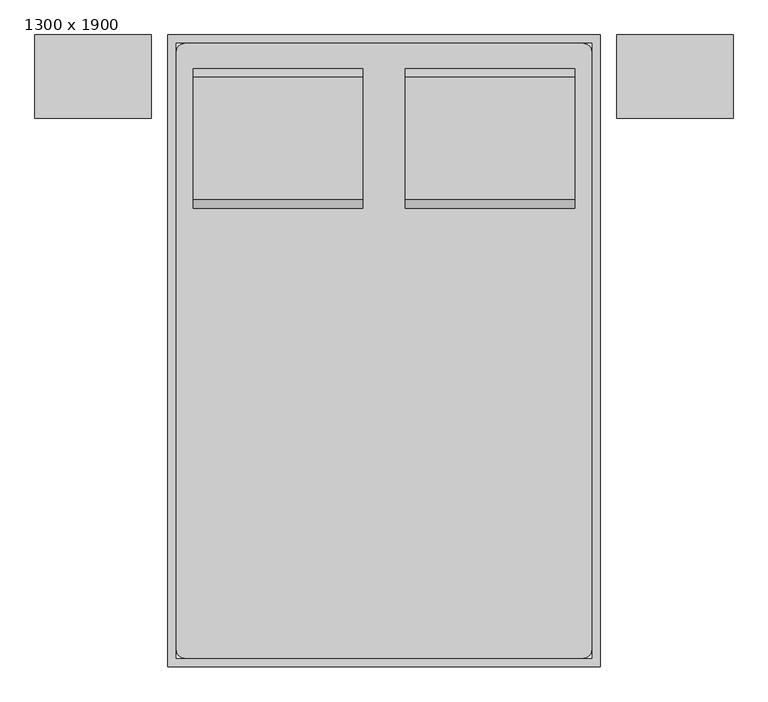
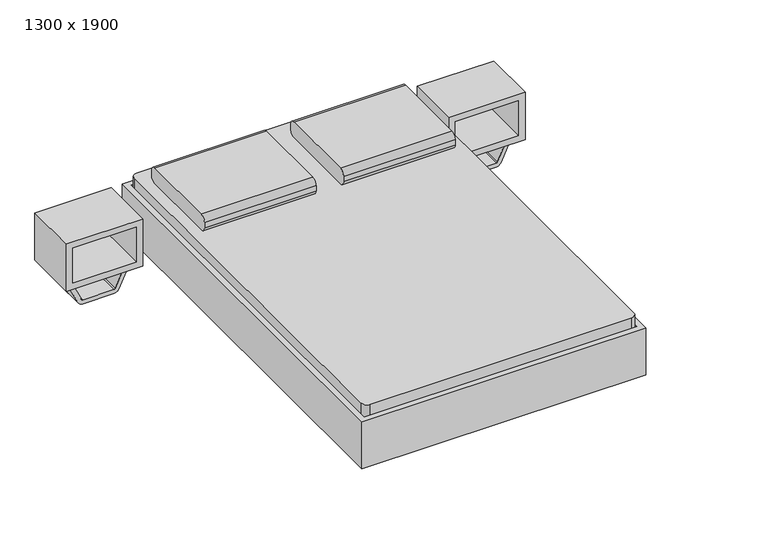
"""IFC4 building model written with IfcOpenShell, lengths in millimetres: furniture geometry, 双人床带床头柜 : 1300 x 1900."""

import ifcopenshell
import ifcopenshell.guid

model = None  # the IFC model being written
_history = None  # IfcOwnerHistory: only IFC2X3 demands one
_inside = {}  # id of a spatial element -> (the spatial element, [elements in it])
_under = {}  # id of a project, library or spatial element -> (it, [spatial elements below it])
_declared = {}  # id of a project -> (the project, [libraries it declares])
_typed = {}  # id of a type object -> (the type object, [elements of that type])
_made_of = {}  # id of a material, layer set ... -> (it, [elements and type objects made of it])


def new_model(schema):
    """Start an empty IFC model of exactly this schema.

    Asked for "IFC4X3", IfcOpenShell would pick the latest addendum, in which some entities
    have other attributes; the version numbers below select the first issue.
    IFC2X3 requires an IfcOwnerHistory on every rooted entity: one is made here for all.
    """
    global model, _history
    if schema == "IFC4X3":
        model = ifcopenshell.file(schema_version=(4, 3, 0, 0))
    else:
        model = ifcopenshell.file(schema=schema)
    _inside.clear()
    _under.clear()
    _declared.clear()
    _typed.clear()
    _made_of.clear()
    _history = None
    if model.schema == "IFC2X3":
        org = make("IfcOrganization", Name="unknown")
        user = make(
            "IfcPersonAndOrganization",
            ThePerson=make("IfcPerson", FamilyName="unknown"),
            TheOrganization=org,
        )
        app = make(
            "IfcApplication",
            ApplicationDeveloper=org,
            Version="unknown",
            ApplicationFullName="unknown",
            ApplicationIdentifier="unknown",
        )
        _history = make(
            "IfcOwnerHistory",
            OwningUser=user,
            OwningApplication=app,
            ChangeAction="ADDED",
            CreationDate=0,
        )
    return model


def make(cls, **values):
    """One entity of the class cls with the attributes given. An attribute that is None is left unset."""
    return model.create_entity(
        cls, **{name: value for name, value in values.items() if value is not None}
    )


def rooted(cls, **values):
    """An entity with a GlobalId (a new one), such as an element, a storey or a relation."""
    return make(cls, GlobalId=ifcopenshell.guid.new(), OwnerHistory=_history, **values)


def si_unit(unit_type, name, prefix=None):
    """IfcSIUnit, for example si_unit("LENGTHUNIT", "METRE", prefix="MILLI")."""
    return make("IfcSIUnit", UnitType=unit_type, Prefix=prefix, Name=name)


def assignment(units):
    """IfcUnitAssignment: the units of a project."""
    return None if units is None else make("IfcUnitAssignment", Units=units)


def point(xyz):
    """IfcCartesianPoint."""
    return None if xyz is None else make("IfcCartesianPoint", Coordinates=xyz)


def direction(xyz):
    """IfcDirection."""
    return None if xyz is None else make("IfcDirection", DirectionRatios=xyz)


def frame(location, z_axis=None, x_axis=None):
    """IfcAxis2Placement3D, a coordinate frame: its origin and axes. An axis left out is left unset."""
    return make(
        "IfcAxis2Placement3D",
        Location=point(location),
        Axis=direction(z_axis),
        RefDirection=direction(x_axis),
    )


def frame_2d(location, x_axis=None):
    """IfcAxis2Placement2D, a coordinate frame in the plane: its origin and x axis."""
    return make(
        "IfcAxis2Placement2D", Location=point(location), RefDirection=direction(x_axis)
    )


def origin():
    """The frame at (0, 0, 0) with its axes left unset."""
    return frame((0.0, 0.0, 0.0))


def place(relative_to, where):
    """IfcLocalPlacement: puts the frame where relative to a parent placement (None: the world)."""
    return make(
        "IfcLocalPlacement", PlacementRelTo=relative_to, RelativePlacement=where
    )


def context(
    kind, dimensions, precision=None, world=None, true_north=None, identifier=None
):
    """IfcGeometricRepresentationContext, for example the 3D "Model" context."""
    return make(
        "IfcGeometricRepresentationContext",
        ContextIdentifier=identifier,
        ContextType=kind,
        CoordinateSpaceDimension=dimensions,
        Precision=precision,
        WorldCoordinateSystem=world,
        TrueNorth=true_north,
    )


def project(units=None, contexts=None):
    """IfcProject with its units and contexts."""
    return rooted(
        "IfcProject",
        Name="project",
        RepresentationContexts=contexts,
        UnitsInContext=assignment(units),
    )


def spatial(cls, under=None, at=None, **own):
    """A site, building, storey or space (cls), placed at a placement, below another one or the project."""
    s = rooted(cls, ObjectPlacement=at, **own)
    if under is not None:
        _under.setdefault(under.id(), (under, []))[1].append(s)
    return s


def polyline(points):
    """IfcPolyline through the points."""
    return make("IfcPolyline", Points=[point(p) for p in points])


def circle_curve(where, radius):
    """IfcCircle in the frame where."""
    return make("IfcCircle", Position=where, Radius=radius)


def trimmed(basis, trim1, trim2, sense, master):
    """IfcTrimmedCurve: the piece of a basis curve between two trims."""
    return make(
        "IfcTrimmedCurve",
        BasisCurve=basis,
        Trim1=trim1,
        Trim2=trim2,
        SenseAgreement=sense,
        MasterRepresentation=master,
    )


def segment(curve, same_sense, transition):
    """IfcCompositeCurveSegment."""
    return make(
        "IfcCompositeCurveSegment",
        Transition=transition,
        SameSense=same_sense,
        ParentCurve=curve,
    )


def composite_curve(segments, self_intersect=None):
    """IfcCompositeCurve: segments joined end to end."""
    return make("IfcCompositeCurve", Segments=segments, SelfIntersect=self_intersect)


def outline(outer, holes=None, kind="AREA"):
    """IfcArbitraryClosedProfileDef: a profile drawn as a closed curve; with holes, ...WithVoids."""
    if holes is None:
        return make("IfcArbitraryClosedProfileDef", ProfileType=kind, OuterCurve=outer)
    return make(
        "IfcArbitraryProfileDefWithVoids",
        ProfileType=kind,
        OuterCurve=outer,
        InnerCurves=holes,
    )


def extrude(swept, where, along, depth):
    """IfcExtrudedAreaSolid: the profile swept, set in the frame where, extruded along a direction by depth."""
    return make(
        "IfcExtrudedAreaSolid",
        SweptArea=swept,
        Position=where,
        ExtrudedDirection=direction(along),
        Depth=depth,
    )


def shape(context_of_items, identifier, shape_type, items):
    """IfcShapeRepresentation: the items that make up one representation, for example the "Body"."""
    return make(
        "IfcShapeRepresentation",
        ContextOfItems=context_of_items,
        RepresentationIdentifier=identifier,
        RepresentationType=shape_type,
        Items=items,
    )


def source(mapping_origin, context_of_items, identifier, shape_type, items):
    """IfcRepresentationMap: a shape defined once, which mapped items show again and again."""
    return make(
        "IfcRepresentationMap",
        MappingOrigin=mapping_origin,
        MappedRepresentation=shape(context_of_items, identifier, shape_type, items),
    )


def transform(
    local_origin,
    x_axis=None,
    y_axis=None,
    z_axis=None,
    scale=None,
    scale2=None,
    scale3=None,
    uniform=True,
):
    """IfcCartesianTransformationOperator3D, or its non-uniform kind. x_axis, y_axis, z_axis: its Axis1, 2, 3."""
    if uniform:
        return make(
            "IfcCartesianTransformationOperator3D",
            Axis1=direction(x_axis),
            Axis2=direction(y_axis),
            LocalOrigin=point(local_origin),
            Scale=scale,
            Axis3=direction(z_axis),
        )
    return make(
        "IfcCartesianTransformationOperator3DnonUniform",
        Axis1=direction(x_axis),
        Axis2=direction(y_axis),
        LocalOrigin=point(local_origin),
        Scale=scale,
        Axis3=direction(z_axis),
        Scale2=scale2,
        Scale3=scale3,
    )


def mapped(mapping_source, mapping_target):
    """IfcMappedItem: shows the shape of a source again, moved by a transform."""
    return make(
        "IfcMappedItem", MappingSource=mapping_source, MappingTarget=mapping_target
    )


def made_of(thing, what):
    """Note that an element or type object is made of a material, layer set ...; save() writes the relation."""
    if what is not None:
        _made_of.setdefault(what.id(), (what, []))[1].append(thing)
    return thing


def element(
    cls,
    number,
    at=None,
    inside=None,
    cuts=None,
    type_object=None,
    material=None,
    context=None,
    identifier="Body",
    shape_type=None,
    held_by="IfcProductDefinitionShape",
    body=None,
    shapes=None,
    **own,
):
    """One element of the class cls, such as IfcWall. Its Tag is "e" and its number.

    at: its placement. inside: the storey or other place that contains it. cuts: it is an
    opening in that element (IfcRelVoidsElement). A single representation is given by context,
    identifier, shape_type and body (its items); several are given by shapes. held_by: the class
    of the entity that holds the representations. save() writes the other relations.
    """
    e = rooted(cls, Tag="e%d" % number, ObjectPlacement=at, **own)
    if body is not None:
        shapes = [shape(context, identifier, shape_type, body)]
    if shapes is not None:
        e.Representation = make(held_by, Representations=shapes)
    if inside is not None:
        _inside.setdefault(inside.id(), (inside, []))[1].append(e)
    if cuts is not None:
        rooted(
            "IfcRelVoidsElement", RelatingBuildingElement=cuts, RelatedOpeningElement=e
        )
    if type_object is not None:
        _typed.setdefault(type_object.id(), (type_object, []))[1].append(e)
    return made_of(e, material)


def aggregate(whole, parts):
    """IfcRelAggregates: a whole, such as a stair, and the parts it consists of."""
    return rooted("IfcRelAggregates", RelatingObject=whole, RelatedObjects=parts)


def save(model, path):
    """Write the relations noted so far, then the file.

    IfcRelAggregates (storeys below a building ...), IfcRelContainedInSpatialStructure (elements
    in a storey), IfcRelDefinesByType, IfcRelAssociatesMaterial and IfcRelDeclares: one each for
    every whole, place, type object, material and project.
    """
    for whole, parts in _under.values():
        aggregate(whole, parts)
    for where, things in _inside.values():
        rooted(
            "IfcRelContainedInSpatialStructure",
            RelatedElements=things,
            RelatingStructure=where,
        )
    for kind, things in _typed.values():
        rooted("IfcRelDefinesByType", RelatedObjects=things, RelatingType=kind)
    for what, things in _made_of.values():
        rooted("IfcRelAssociatesMaterial", RelatedObjects=things, RelatingMaterial=what)
    for by, libraries in _declared.values():
        rooted("IfcRelDeclares", RelatingContext=by, RelatedDefinitions=libraries)
    model.write(path)


def plane_surface(at):
    """IfcPlane: the flat surface through the origin of the frame at, square to its z axis."""
    return make("IfcPlane", Position=at)


def cylinder_surface(at, radius):
    """IfcCylindricalSurface: all points at the distance radius from the z axis of the frame at."""
    return make("IfcCylindricalSurface", Position=at, Radius=radius)


def revolved_surface(curve, axis_point, axis_direction):
    """IfcSurfaceOfRevolution: the curve turned about the line through axis_point along axis_direction."""
    return make(
        "IfcSurfaceOfRevolution",
        SweptCurve=make("IfcArbitraryOpenProfileDef", ProfileType="CURVE", Curve=curve),
        AxisPosition=make("IfcAxis1Placement", Location=point(axis_point), Axis=direction(axis_direction)),
    )


def advanced_brep(points, edges, surfaces, faces):
    """IfcAdvancedBrep: a solid bounded by faces that lie on surfaces and meet in shared edges.

    An edge is (start, end): straight between two places in points (the first is 0);
    or (start, end, curve); or (start, end, curve, False) where it runs against its curve.
    A face is (place in surfaces, loops), or (place, loops, False) where it looks against
    its surface's normal. A loop lists edges by number (the first is 1), with a minus sign
    where the edge is run from its end to its start. The first loop is the outer one.
    """
    corners = [point(p) for p in points]
    vertices = [make("IfcVertexPoint", VertexGeometry=c) for c in corners]
    made = []
    for start, end, *more in edges:
        made.append(
            make(
                "IfcEdgeCurve",
                EdgeStart=vertices[start],
                EdgeEnd=vertices[end],
                EdgeGeometry=more[0] if more else make("IfcPolyline", Points=[corners[start], corners[end]]),
                SameSense=more[1] if len(more) > 1 else True,
            )
        )
    hull = []
    for where, loops, *sense in faces:
        bounds = []
        for j, loop in enumerate(loops):
            ring = [make("IfcOrientedEdge", EdgeElement=made[abs(k) - 1], Orientation=k > 0) for k in loop]
            bounds.append(
                make(
                    "IfcFaceOuterBound" if j == 0 else "IfcFaceBound",
                    Bound=make("IfcEdgeLoop", EdgeList=ring),
                    Orientation=True,
                )
            )
        hull.append(make("IfcAdvancedFace", Bounds=bounds, FaceSurface=surfaces[where], SameSense=sense[0] if sense else True))
    return make("IfcAdvancedBrep", Outer=make("IfcClosedShell", CfsFaces=hull))


def furniture_1300_x_1900_9f84805e(model_context):
    return source(origin(), model_context, "Body", "SolidModel", [
        advanced_brep(
        [(-285.1231784, 461.5704918, 177.8), (-285.1231784, 385.3704918, 177.8), (-285.1231784, 385.3704918, 196.85), (-285.1231784, 461.5704918, 196.85), (-234.3231784, 461.5704918, 177.8), (-234.3231784, 385.3704918, 177.8), (-222.1869899, 385.3704918, 196.85), (-222.1869899, 461.5704918, 196.85), (-158.2523099, 461.5704918, 14.6654962), (-158.2523099, 385.3704918, 14.6654962), (-140.9871466, 385.3704918, 22.716374), (-140.9871466, 461.5704918, 22.716374), (-135.2320921, 385.3704918, 0.0), (-135.2320921, 461.5704918, 0.0), (-135.2320921, 385.3704918, 19.05), (-135.2320921, 461.5704918, 19.05), (-56.6195862, 461.5704918, 0.0), (-56.6195862, 385.3704918, 0.0), (-56.6195862, 385.3704918, 19.05), (-56.6195862, 461.5704918, 19.05), (-43.9195862, 385.3704918, 3.4029547), (-43.9195862, 461.5704918, 3.4029547), (-53.4445862, 385.3704918, 19.9007387), (-53.4445862, 461.5704918, 19.9007387), (16.177459, 461.5704918, 38.1), (16.177459, 385.3704918, 38.1), (11.0730269, 385.3704918, 57.15), (11.0730269, 461.5704918, 57.15), (662.4518216, 461.5704918, 38.1), (662.4518216, 385.3704918, 38.1), (667.5562537, 385.3704918, 57.15), (667.5562537, 461.5704918, 57.15), (722.5488669, 461.5704918, 3.4029547), (722.5488669, 385.3704918, 3.4029547), (732.0738669, 385.3704918, 19.9007387), (732.0738669, 461.5704918, 19.9007387), (735.2488669, 385.3704918, 0.0), (735.2488669, 461.5704918, 0.0), (735.2488669, 385.3704918, 19.05), (735.2488669, 461.5704918, 19.05), (813.8613728, 461.5704918, 0.0), (813.8613728, 385.3704918, 0.0), (813.8613728, 385.3704918, 19.05), (813.8613728, 461.5704918, 19.05), (836.8815906, 385.3704918, 14.6654962), (836.8815906, 461.5704918, 14.6654962), (819.6164272, 385.3704918, 22.716374), (819.6164272, 461.5704918, 22.716374), (912.952459, 461.5704918, 177.8), (912.952459, 385.3704918, 177.8), (900.8162705, 385.3704918, 196.85), (900.8162705, 461.5704918, 196.85), (963.752459, 461.5704918, 177.8), (963.752459, 461.5704918, 196.85), (963.752459, 385.3704918, 196.85), (963.752459, 385.3704918, 177.8)],
        [
            (0, 1),
            (1, 2),
            (2, 3),
            (3, 0),
            (0, 4),
            (4, 5),
            (5, 1),
            (5, 6),
            (6, 2),
            (6, 7),
            (7, 3),
            (7, 4),
            (4, 8),
            (8, 9),
            (9, 5),
            (9, 10),
            (10, 6),
            (10, 11),
            (11, 7),
            (11, 8),
            (12, 9, circle_curve(frame((-135.2320921, 385.3704918, 25.4), z_axis=(0.0, 1.0, 0.0), x_axis=(-0.906307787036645, 0.0, -0.42261826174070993)), 25.4)),
            (8, 13, circle_curve(frame((-135.2320921, 461.5704918, 25.4), z_axis=(0.0, -1.0, 0.0), x_axis=(-0.906307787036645, 0.0, -0.42261826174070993)), 25.4)),
            (13, 12),
            (14, 10, circle_curve(frame((-135.2320921, 385.3704918, 25.4), z_axis=(0.0, 1.0, 0.0), x_axis=(-0.906307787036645, 0.0, -0.42261826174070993)), 6.35)),
            (12, 14),
            (15, 11, circle_curve(frame((-135.2320921, 461.5704918, 25.4), z_axis=(0.0, 1.0, 0.0), x_axis=(-0.906307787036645, 0.0, -0.42261826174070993)), 6.35)),
            (14, 15),
            (15, 13),
            (13, 16),
            (16, 17),
            (17, 12),
            (17, 18),
            (18, 14),
            (18, 19),
            (19, 15),
            (19, 16),
            (20, 17, circle_curve(frame((-56.6195862, 385.3704918, 25.4), z_axis=(0.0, 1.0, 0.0), x_axis=(0.0, 0.0, -1.0)), 25.4)),
            (16, 21, circle_curve(frame((-56.6195862, 461.5704918, 25.4), z_axis=(0.0, -1.0, 0.0), x_axis=(0.0, 0.0, -1.0)), 25.4)),
            (21, 20),
            (22, 18, circle_curve(frame((-56.6195862, 385.3704918, 25.4), z_axis=(0.0, 1.0, 0.0), x_axis=(0.0, 0.0, -1.0)), 6.35)),
            (20, 22),
            (23, 19, circle_curve(frame((-56.6195862, 461.5704918, 25.4), z_axis=(0.0, 1.0, 0.0), x_axis=(0.0, 0.0, -1.0)), 6.35)),
            (22, 23),
            (23, 21),
            (21, 24),
            (24, 25),
            (25, 20),
            (25, 26),
            (26, 22),
            (26, 27),
            (27, 23),
            (27, 24),
            (24, 28),
            (28, 29),
            (29, 25),
            (29, 30),
            (30, 26),
            (30, 31),
            (31, 27),
            (31, 28),
            (28, 32),
            (32, 33),
            (33, 29),
            (33, 34),
            (34, 30),
            (34, 35),
            (35, 31),
            (35, 32),
            (36, 33, circle_curve(frame((735.2488669, 385.3704918, 25.4), z_axis=(0.0, 1.0, 0.0), x_axis=(-0.5000000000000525, 0.0, -0.8660254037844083)), 25.4)),
            (32, 37, circle_curve(frame((735.2488669, 461.5704918, 25.4), z_axis=(0.0, -1.0, 0.0), x_axis=(-0.5000000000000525, 0.0, -0.8660254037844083)), 25.4)),
            (37, 36),
            (38, 34, circle_curve(frame((735.2488669, 385.3704918, 25.4), z_axis=(0.0, 1.0, 0.0), x_axis=(-0.5000000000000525, 0.0, -0.8660254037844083)), 6.35)),
            (36, 38),
            (39, 35, circle_curve(frame((735.2488669, 461.5704918, 25.4), z_axis=(0.0, 1.0, 0.0), x_axis=(-0.5000000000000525, 0.0, -0.8660254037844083)), 6.35)),
            (38, 39),
            (39, 37),
            (37, 40),
            (40, 41),
            (41, 36),
            (41, 42),
            (42, 38),
            (42, 43),
            (43, 39),
            (43, 40),
            (44, 41, circle_curve(frame((813.8613728, 385.3704918, 25.4), z_axis=(0.0, 1.0, 0.0), x_axis=(0.0, 0.0, -1.0)), 25.4)),
            (40, 45, circle_curve(frame((813.8613728, 461.5704918, 25.4), z_axis=(0.0, -1.0, 0.0), x_axis=(0.0, 0.0, -1.0)), 25.4)),
            (45, 44),
            (46, 42, circle_curve(frame((813.8613728, 385.3704918, 25.4), z_axis=(0.0, 1.0, 0.0), x_axis=(0.0, 0.0, -1.0)), 6.35)),
            (44, 46),
            (47, 43, circle_curve(frame((813.8613728, 461.5704918, 25.4), z_axis=(0.0, 1.0, 0.0), x_axis=(0.0, 0.0, -1.0)), 6.35)),
            (46, 47),
            (47, 45),
            (45, 48),
            (48, 49),
            (49, 44),
            (49, 50),
            (50, 46),
            (50, 51),
            (51, 47),
            (51, 48),
            (52, 53),
            (53, 54),
            (54, 55),
            (55, 52),
            (48, 52),
            (55, 49),
            (54, 50),
            (53, 51),
        ],
        [
            plane_surface(frame((-285.1231784, 715.5704918, -152.9490627), z_axis=(-1.0, 0.0, 0.0), x_axis=(0.0, 1.0, 0.0))),
            plane_surface(frame((-285.1231784, 461.5704918, 177.8), z_axis=(0.0, 0.0, -1.0), x_axis=(1.0, 0.0, 0.0))),
            plane_surface(frame((-285.1231784, 385.3704918, 177.8), z_axis=(0.0, -1.0, 0.0), x_axis=(1.0, 0.0, 0.0))),
            plane_surface(frame((-285.1231784, 385.3704918, 196.85), z_axis=(0.0, 0.0, 1.0), x_axis=(1.0, 0.0, 0.0))),
            plane_surface(frame((-285.1231784, 461.5704918, 196.85), z_axis=(0.0, 1.0, 0.0), x_axis=(1.0, 0.0, 0.0))),
            plane_surface(frame((-234.3231784, 461.5704918, 177.8), z_axis=(-0.9063077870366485, 0.0, -0.42261826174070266), x_axis=(0.42261826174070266, 0.0, -0.9063077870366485))),
            plane_surface(frame((-234.3231784, 385.3704918, 177.8), z_axis=(0.0, -1.0, 0.0), x_axis=(0.42261826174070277, 0.0, -0.9063077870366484))),
            plane_surface(frame((-222.1869899, 385.3704918, 196.85), z_axis=(0.9063077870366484, 0.0, 0.4226182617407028), x_axis=(0.4226182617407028, 0.0, -0.9063077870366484))),
            plane_surface(frame((-222.1869899, 461.5704918, 196.85), z_axis=(0.0, 1.0, 0.0), x_axis=(0.4226182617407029, 0.0, -0.9063077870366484))),
            cylinder_surface(frame((-135.2320921, 715.5704918, 25.4), z_axis=(0.0, -1.0, 0.0), x_axis=(-0.906307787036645, 0.0, -0.42261826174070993)), 25.4),
            plane_surface(frame((-135.2320921, 385.3704918, 25.4), z_axis=(0.0, -1.0, 0.0), x_axis=(-0.906307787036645, 0.0, -0.42261826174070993))),
            revolved_surface(polyline([(-140.9871465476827, 385.3704918, 22.71637403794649), (-140.9871465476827, 461.5704918, 22.71637403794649)]), (-135.2320921, 715.5704918, 25.4), (0.0, -1.0, 0.0)),
            plane_surface(frame((-135.2320921, 461.5704918, 25.4), z_axis=(0.0, 1.0, 0.0), x_axis=(-0.906307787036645, 0.0, -0.42261826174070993))),
            plane_surface(frame((-135.2320921, 461.5704918, 0.0), z_axis=(0.0, 0.0, -1.0), x_axis=(1.0, 0.0, 0.0))),
            plane_surface(frame((-135.2320921, 385.3704918, 0.0), z_axis=(0.0, -1.0, 0.0), x_axis=(1.0, 0.0, 0.0))),
            plane_surface(frame((-135.2320921, 385.3704918, 19.05), z_axis=(0.0, 0.0, 1.0), x_axis=(1.0, 0.0, 0.0))),
            plane_surface(frame((-135.2320921, 461.5704918, 19.05), z_axis=(0.0, 1.0, 0.0), x_axis=(1.0, 0.0, 0.0))),
            cylinder_surface(frame((-56.6195862, 715.5704918, 25.4), z_axis=(0.0, -1.0, 0.0), x_axis=(0.0, 0.0, -1.0)), 25.4),
            plane_surface(frame((-56.6195862, 385.3704918, 25.4), z_axis=(0.0, -1.0, 0.0), x_axis=(0.0, 0.0, -1.0))),
            revolved_surface(polyline([(-56.6195862, 385.3704918, 19.049999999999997), (-56.6195862, 461.5704918, 19.049999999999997)]), (-56.6195862, 715.5704918, 25.4), (0.0, -1.0, 0.0)),
            plane_surface(frame((-56.6195862, 461.5704918, 25.4), z_axis=(0.0, 1.0, 0.0), x_axis=(0.0, 0.0, -1.0))),
            plane_surface(frame((-43.9195862, 461.5704918, 3.4029547), z_axis=(0.49999999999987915, 0.0, -0.8660254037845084), x_axis=(0.8660254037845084, 0.0, 0.49999999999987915))),
            plane_surface(frame((-43.9195862, 385.3704918, 3.4029547), z_axis=(0.0, -1.0000000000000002, 0.0), x_axis=(0.8660254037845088, 0.0, 0.4999999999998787))),
            plane_surface(frame((-53.4445862, 385.3704918, 19.9007387), z_axis=(-0.49999999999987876, 0.0, 0.8660254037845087), x_axis=(0.8660254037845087, 0.0, 0.49999999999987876))),
            plane_surface(frame((-53.4445862, 461.5704918, 19.9007387), z_axis=(0.0, 1.0000000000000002, 0.0), x_axis=(0.8660254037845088, 0.0, 0.4999999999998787))),
            plane_surface(frame((16.177459, 461.5704918, 38.1), z_axis=(0.0, 0.0, -1.0), x_axis=(1.0, 0.0, 0.0))),
            plane_surface(frame((16.177459, 385.3704918, 38.1), z_axis=(0.0, -1.0, 0.0), x_axis=(1.0, 0.0, 0.0))),
            plane_surface(frame((11.0730269, 385.3704918, 57.15), z_axis=(0.0, 0.0, 1.0), x_axis=(1.0, 0.0, 0.0))),
            plane_surface(frame((11.0730269, 461.5704918, 57.15), z_axis=(0.0, 1.0, 0.0), x_axis=(1.0, 0.0, 0.0))),
            plane_surface(frame((662.4518216, 461.5704918, 38.1), z_axis=(-0.5000000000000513, 0.0, -0.8660254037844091), x_axis=(0.8660254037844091, 0.0, -0.5000000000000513))),
            plane_surface(frame((662.4518216, 385.3704918, 38.1), z_axis=(0.0, -1.0, 0.0), x_axis=(0.8660254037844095, 0.0, -0.5000000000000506))),
            plane_surface(frame((667.5562537, 385.3704918, 57.15), z_axis=(0.5000000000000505, 0.0, 0.8660254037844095), x_axis=(0.8660254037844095, 0.0, -0.5000000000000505))),
            plane_surface(frame((667.5562537, 461.5704918, 57.15), z_axis=(0.0, 1.0, 0.0), x_axis=(0.8660254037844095, 0.0, -0.5000000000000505))),
            cylinder_surface(frame((735.2488669, 715.5704918, 25.4), z_axis=(0.0, -1.0, 0.0), x_axis=(-0.5000000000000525, 0.0, -0.8660254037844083)), 25.4),
            plane_surface(frame((735.2488669, 385.3704918, 25.4), z_axis=(0.0, -1.0000000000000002, 0.0), x_axis=(-0.5000000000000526, 0.0, -0.8660254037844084))),
            revolved_surface(polyline([(732.0738668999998, 385.3704918, 19.900738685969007), (732.0738668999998, 461.5704918, 19.900738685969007)]), (735.2488669, 715.5704918, 25.4), (0.0, -1.0, 0.0)),
            plane_surface(frame((735.2488669, 461.5704918, 25.4), z_axis=(0.0, 1.0000000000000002, 0.0), x_axis=(-0.5000000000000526, 0.0, -0.8660254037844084))),
            plane_surface(frame((735.2488669, 461.5704918, 0.0), z_axis=(0.0, 0.0, -1.0), x_axis=(1.0, 0.0, 0.0))),
            plane_surface(frame((735.2488669, 385.3704918, 0.0), z_axis=(0.0, -1.0, 0.0), x_axis=(1.0, 0.0, 0.0))),
            plane_surface(frame((735.2488669, 385.3704918, 19.05), z_axis=(0.0, 0.0, 1.0), x_axis=(1.0, 0.0, 0.0))),
            plane_surface(frame((735.2488669, 461.5704918, 19.05), z_axis=(0.0, 1.0, 0.0), x_axis=(1.0, 0.0, 0.0))),
            cylinder_surface(frame((813.8613728, 715.5704918, 25.4), z_axis=(0.0, -1.0, 0.0), x_axis=(0.0, 0.0, -1.0)), 25.4),
            plane_surface(frame((813.8613728, 385.3704918, 25.4), z_axis=(0.0, -1.0, 0.0), x_axis=(0.0, 0.0, -1.0))),
            revolved_surface(polyline([(813.8613728, 385.3704918, 19.049999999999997), (813.8613728, 461.5704918, 19.049999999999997)]), (813.8613728, 715.5704918, 25.4), (0.0, -1.0, 0.0)),
            plane_surface(frame((813.8613728, 461.5704918, 25.4), z_axis=(0.0, 1.0, 0.0), x_axis=(0.0, 0.0, -1.0))),
            plane_surface(frame((836.8815906, 461.5704918, 14.6654962), z_axis=(0.9063077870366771, 0.0, -0.4226182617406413), x_axis=(0.4226182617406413, 0.0, 0.9063077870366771))),
            plane_surface(frame((836.8815906, 385.3704918, 14.6654962), z_axis=(0.0, -1.0, 0.0), x_axis=(0.42261826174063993, 0.0, 0.9063077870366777))),
            plane_surface(frame((819.6164272, 385.3704918, 22.716374), z_axis=(-0.9063077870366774, 0.0, 0.42261826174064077), x_axis=(0.42261826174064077, 0.0, 0.9063077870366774))),
            plane_surface(frame((819.6164272, 461.5704918, 22.716374), z_axis=(0.0, 1.0, 0.0), x_axis=(0.42261826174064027, 0.0, 0.9063077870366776))),
            plane_surface(frame((963.752459, 715.5704918, -152.9490627), z_axis=(1.0, 0.0, 0.0), x_axis=(0.0, 1.0, 0.0))),
            plane_surface(frame((912.952459, 461.5704918, 177.8), z_axis=(0.0, 0.0, -1.0), x_axis=(1.0, 0.0, 0.0))),
            plane_surface(frame((912.952459, 385.3704918, 177.8), z_axis=(0.0, -1.0, 0.0), x_axis=(1.0, 0.0, 0.0))),
            plane_surface(frame((900.8162705, 385.3704918, 196.85), z_axis=(0.0, 0.0, 1.0), x_axis=(1.0, 0.0, 0.0))),
            plane_surface(frame((900.8162705, 461.5704918, 196.85), z_axis=(0.0, 1.0, 0.0), x_axis=(1.0, 0.0, 0.0))),
        ],
        [
            (0, [[1, 2, 3, 4]]),
            (1, [[-1, 5, 6, 7]]),
            (2, [[-2, -7, 8, 9]]),
            (3, [[-3, -9, 10, 11]]),
            (4, [[-4, -11, 12, -5]]),
            (5, [[-6, 13, 14, 15]]),
            (6, [[-8, -15, 16, 17]]),
            (7, [[-10, -17, 18, 19]]),
            (8, [[-12, -19, 20, -13]]),
            (9, [[21, -14, 22, 23]]),
            (10, [[24, -16, -21, 25]]),
            (11, [[26, -18, -24, 27]]),
            (12, [[-22, -20, -26, 28]]),
            (13, [[-23, 29, 30, 31]]),
            (14, [[-25, -31, 32, 33]]),
            (15, [[-27, -33, 34, 35]]),
            (16, [[-28, -35, 36, -29]]),
            (17, [[37, -30, 38, 39]]),
            (18, [[40, -32, -37, 41]]),
            (19, [[42, -34, -40, 43]]),
            (20, [[-38, -36, -42, 44]]),
            (21, [[-39, 45, 46, 47]]),
            (22, [[-41, -47, 48, 49]]),
            (23, [[-43, -49, 50, 51]]),
            (24, [[-44, -51, 52, -45]]),
            (25, [[-46, 53, 54, 55]]),
            (26, [[-48, -55, 56, 57]]),
            (27, [[-50, -57, 58, 59]]),
            (28, [[-52, -59, 60, -53]]),
            (29, [[-54, 61, 62, 63]]),
            (30, [[-56, -63, 64, 65]]),
            (31, [[-58, -65, 66, 67]]),
            (32, [[-60, -67, 68, -61]]),
            (33, [[69, -62, 70, 71]]),
            (34, [[72, -64, -69, 73]]),
            (35, [[74, -66, -72, 75]]),
            (36, [[-70, -68, -74, 76]]),
            (37, [[-71, 77, 78, 79]]),
            (38, [[-73, -79, 80, 81]]),
            (39, [[-75, -81, 82, 83]]),
            (40, [[-76, -83, 84, -77]]),
            (41, [[85, -78, 86, 87]]),
            (42, [[88, -80, -85, 89]]),
            (43, [[90, -82, -88, 91]]),
            (44, [[-86, -84, -90, 92]]),
            (45, [[-87, 93, 94, 95]]),
            (46, [[-89, -95, 96, 97]]),
            (47, [[-91, -97, 98, 99]]),
            (48, [[-92, -99, 100, -93]]),
            (49, [[101, 102, 103, 104]]),
            (50, [[-94, 105, -104, 106]]),
            (51, [[-96, -106, -103, 107]]),
            (52, [[-98, -107, -102, 108]]),
            (53, [[-100, -108, -101, -105]]),
        ],
    ),
        advanced_brep(
        [(-285.447541, -879.6295082, 196.85), (-285.447541, -879.6295082, 177.8), (-285.447541, -955.8295082, 177.8), (-285.447541, -955.8295082, 196.85), (-222.5113525, -879.6295082, 196.85), (-234.647541, -879.6295082, 177.8), (-234.647541, -955.8295082, 177.8), (-222.5113525, -955.8295082, 196.85), (-141.3115092, -879.6295082, 22.716374), (-158.5766725, -879.6295082, 14.6654962), (-158.5766725, -955.8295082, 14.6654962), (-141.3115092, -955.8295082, 22.716374), (-135.5564547, -879.6295082, 0.0), (-135.5564547, -879.6295082, 19.05), (-135.5564547, -955.8295082, 0.0), (-135.5564547, -955.8295082, 19.05), (-56.9439489, -879.6295082, 19.05), (-56.9439489, -879.6295082, 0.0), (-56.9439489, -955.8295082, 0.0), (-56.9439489, -955.8295082, 19.05), (-44.2439489, -879.6295082, 3.4029547), (-53.7689489, -879.6295082, 19.9007387), (-44.2439489, -955.8295082, 3.4029547), (-53.7689489, -955.8295082, 19.9007387), (10.7486643, -879.6295082, 57.15), (15.8530964, -879.6295082, 38.1), (15.8530964, -955.8295082, 38.1), (10.7486643, -955.8295082, 57.15), (667.5562537, -879.6295082, 57.15), (662.4518216, -879.6295082, 38.1), (662.4518216, -955.8295082, 38.1), (667.5562537, -955.8295082, 57.15), (732.0738669, -879.6295082, 19.9007387), (722.5488669, -879.6295082, 3.4029547), (722.5488669, -955.8295082, 3.4029547), (732.0738669, -955.8295082, 19.9007387), (735.2488669, -879.6295082, 0.0), (735.2488669, -879.6295082, 19.05), (735.2488669, -955.8295082, 0.0), (735.2488669, -955.8295082, 19.05), (813.8613728, -879.6295082, 19.05), (813.8613728, -879.6295082, 0.0), (813.8613728, -955.8295082, 0.0), (813.8613728, -955.8295082, 19.05), (836.8815906, -879.6295082, 14.6654962), (819.6164272, -879.6295082, 22.716374), (836.8815906, -955.8295082, 14.6654962), (819.6164272, -955.8295082, 22.716374), (900.8162705, -879.6295082, 196.85), (912.952459, -879.6295082, 177.8), (912.952459, -955.8295082, 177.8), (900.8162705, -955.8295082, 196.85), (963.752459, -879.6295082, 196.85), (963.752459, -955.8295082, 196.85), (963.752459, -955.8295082, 177.8), (963.752459, -879.6295082, 177.8)],
        [
            (0, 1),
            (1, 2),
            (2, 3),
            (3, 0),
            (0, 4),
            (4, 5),
            (5, 1),
            (5, 6),
            (6, 2),
            (6, 7),
            (7, 3),
            (7, 4),
            (4, 8),
            (8, 9),
            (9, 5),
            (9, 10),
            (10, 6),
            (10, 11),
            (11, 7),
            (11, 8),
            (12, 9, circle_curve(frame((-135.5564547, -879.6295082, 25.4), z_axis=(0.0, 1.0, 0.0), x_axis=(-0.9063077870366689, 0.0, -0.42261826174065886)), 25.4)),
            (8, 13, circle_curve(frame((-135.5564547, -879.6295082, 25.4), z_axis=(0.0, -1.0, 0.0), x_axis=(-0.9063077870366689, 0.0, -0.42261826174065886)), 6.35)),
            (13, 12),
            (14, 10, circle_curve(frame((-135.5564547, -955.8295082, 25.4), z_axis=(0.0, 1.0, 0.0), x_axis=(-0.9063077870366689, 0.0, -0.42261826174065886)), 25.4)),
            (12, 14),
            (15, 11, circle_curve(frame((-135.5564547, -955.8295082, 25.4), z_axis=(0.0, 1.0, 0.0), x_axis=(-0.9063077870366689, 0.0, -0.42261826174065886)), 6.35)),
            (14, 15),
            (15, 13),
            (13, 16),
            (16, 17),
            (17, 12),
            (17, 18),
            (18, 14),
            (18, 19),
            (19, 15),
            (19, 16),
            (20, 17, circle_curve(frame((-56.9439489, -879.6295082, 25.4), z_axis=(0.0, 1.0, 0.0), x_axis=(0.0, 0.0, -1.0)), 25.4)),
            (16, 21, circle_curve(frame((-56.9439489, -879.6295082, 25.4), z_axis=(0.0, -1.0, 0.0), x_axis=(0.0, 0.0, -1.0)), 6.35)),
            (21, 20),
            (22, 18, circle_curve(frame((-56.9439489, -955.8295082, 25.4), z_axis=(0.0, 1.0, 0.0), x_axis=(0.0, 0.0, -1.0)), 25.4)),
            (20, 22),
            (23, 19, circle_curve(frame((-56.9439489, -955.8295082, 25.4), z_axis=(0.0, 1.0, 0.0), x_axis=(0.0, 0.0, -1.0)), 6.35)),
            (22, 23),
            (23, 21),
            (21, 24),
            (24, 25),
            (25, 20),
            (25, 26),
            (26, 22),
            (26, 27),
            (27, 23),
            (27, 24),
            (24, 28),
            (28, 29),
            (29, 25),
            (29, 30),
            (30, 26),
            (30, 31),
            (31, 27),
            (31, 28),
            (28, 32),
            (32, 33),
            (33, 29),
            (33, 34),
            (34, 30),
            (34, 35),
            (35, 31),
            (35, 32),
            (36, 33, circle_curve(frame((735.2488669, -879.6295082, 25.4), z_axis=(0.0, 1.0, 0.0), x_axis=(-0.5000000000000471, 0.0, -0.8660254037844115)), 25.4)),
            (32, 37, circle_curve(frame((735.2488669, -879.6295082, 25.4), z_axis=(0.0, -1.0, 0.0), x_axis=(-0.5000000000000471, 0.0, -0.8660254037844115)), 6.35)),
            (37, 36),
            (38, 34, circle_curve(frame((735.2488669, -955.8295082, 25.4), z_axis=(0.0, 1.0, 0.0), x_axis=(-0.5000000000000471, 0.0, -0.8660254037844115)), 25.4)),
            (36, 38),
            (39, 35, circle_curve(frame((735.2488669, -955.8295082, 25.4), z_axis=(0.0, 1.0, 0.0), x_axis=(-0.5000000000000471, 0.0, -0.8660254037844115)), 6.35)),
            (38, 39),
            (39, 37),
            (37, 40),
            (40, 41),
            (41, 36),
            (41, 42),
            (42, 38),
            (42, 43),
            (43, 39),
            (43, 40),
            (44, 41, circle_curve(frame((813.8613728, -879.6295082, 25.4), z_axis=(0.0, 1.0, 0.0), x_axis=(0.0, 0.0, -1.0)), 25.4)),
            (40, 45, circle_curve(frame((813.8613728, -879.6295082, 25.4), z_axis=(0.0, -1.0, 0.0), x_axis=(0.0, 0.0, -1.0)), 6.35)),
            (45, 44),
            (46, 42, circle_curve(frame((813.8613728, -955.8295082, 25.4), z_axis=(0.0, 1.0, 0.0), x_axis=(0.0, 0.0, -1.0)), 25.4)),
            (44, 46),
            (47, 43, circle_curve(frame((813.8613728, -955.8295082, 25.4), z_axis=(0.0, 1.0, 0.0), x_axis=(0.0, 0.0, -1.0)), 6.35)),
            (46, 47),
            (47, 45),
            (45, 48),
            (48, 49),
            (49, 44),
            (49, 50),
            (50, 46),
            (50, 51),
            (51, 47),
            (51, 48),
            (52, 53),
            (53, 54),
            (54, 55),
            (55, 52),
            (48, 52),
            (55, 49),
            (54, 50),
            (53, 51),
        ],
        [
            plane_surface(frame((-285.447541, -1184.4295082, -127.5947323), z_axis=(-1.0, 0.0, 0.0), x_axis=(0.0, 1.0, 0.0))),
            plane_surface(frame((-285.447541, -879.6295082, 196.85), z_axis=(0.0, 1.0, 0.0), x_axis=(1.0, 0.0, 0.0))),
            plane_surface(frame((-285.447541, -879.6295082, 177.8), z_axis=(0.0, 0.0, -1.0), x_axis=(1.0, 0.0, 0.0))),
            plane_surface(frame((-285.447541, -955.8295082, 177.8), z_axis=(0.0, -1.0, 0.0), x_axis=(1.0, 0.0, 0.0))),
            plane_surface(frame((-285.447541, -955.8295082, 196.85), z_axis=(0.0, 0.0, 1.0), x_axis=(1.0, 0.0, 0.0))),
            plane_surface(frame((-222.5113525, -879.6295082, 196.85), z_axis=(0.0, 1.0, 0.0), x_axis=(0.4226182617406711, 0.0, -0.9063077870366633))),
            plane_surface(frame((-234.647541, -879.6295082, 177.8), z_axis=(-0.9063077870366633, 0.0, -0.42261826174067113), x_axis=(0.42261826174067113, 0.0, -0.9063077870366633))),
            plane_surface(frame((-234.647541, -955.8295082, 177.8), z_axis=(0.0, -1.0000000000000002, 0.0), x_axis=(0.42261826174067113, 0.0, -0.9063077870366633))),
            plane_surface(frame((-222.5113525, -955.8295082, 196.85), z_axis=(0.9063077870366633, 0.0, 0.42261826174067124), x_axis=(0.42261826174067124, 0.0, -0.9063077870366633))),
            plane_surface(frame((-135.5564547, -879.6295082, 25.4), z_axis=(0.0, 1.0, 0.0), x_axis=(-0.9063077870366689, 0.0, -0.42261826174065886))),
            cylinder_surface(frame((-135.5564547, -1184.4295082, 25.4), z_axis=(0.0, -1.0, 0.0), x_axis=(-0.9063077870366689, 0.0, -0.42261826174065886)), 25.4),
            plane_surface(frame((-135.5564547, -955.8295082, 25.4), z_axis=(0.0, -1.0, 0.0), x_axis=(-0.9063077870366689, 0.0, -0.42261826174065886))),
            revolved_surface(polyline([(-141.31150914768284, -955.8295082, 22.716374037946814), (-141.31150914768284, -879.6295082, 22.716374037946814)]), (-135.5564547, -1184.4295082, 25.4), (0.0, -1.0, 0.0)),
            plane_surface(frame((-135.5564547, -879.6295082, 19.05), z_axis=(0.0, 1.0, 0.0), x_axis=(1.0, 0.0, 0.0))),
            plane_surface(frame((-135.5564547, -879.6295082, 0.0), z_axis=(0.0, 0.0, -1.0), x_axis=(1.0, 0.0, 0.0))),
            plane_surface(frame((-135.5564547, -955.8295082, 0.0), z_axis=(0.0, -1.0, 0.0), x_axis=(1.0, 0.0, 0.0))),
            plane_surface(frame((-135.5564547, -955.8295082, 19.05), z_axis=(0.0, 0.0, 1.0), x_axis=(1.0, 0.0, 0.0))),
            plane_surface(frame((-56.9439489, -879.6295082, 25.4), z_axis=(0.0, 1.0, 0.0), x_axis=(0.0, 0.0, -1.0))),
            cylinder_surface(frame((-56.9439489, -1184.4295082, 25.4), z_axis=(0.0, -1.0, 0.0), x_axis=(0.0, 0.0, -1.0)), 25.4),
            plane_surface(frame((-56.9439489, -955.8295082, 25.4), z_axis=(0.0, -1.0, 0.0), x_axis=(0.0, 0.0, -1.0))),
            revolved_surface(polyline([(-56.9439489, -955.8295082, 19.049999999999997), (-56.9439489, -879.6295082, 19.049999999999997)]), (-56.9439489, -1184.4295082, 25.4), (0.0, -1.0, 0.0)),
            plane_surface(frame((-53.7689489, -879.6295082, 19.9007387), z_axis=(0.0, 1.0000000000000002, 0.0), x_axis=(0.8660254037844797, 0.0, 0.4999999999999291))),
            plane_surface(frame((-44.2439489, -879.6295082, 3.4029547), z_axis=(0.4999999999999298, 0.0, -0.8660254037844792), x_axis=(0.8660254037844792, 0.0, 0.4999999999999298))),
            plane_surface(frame((-44.2439489, -955.8295082, 3.4029547), z_axis=(0.0, -1.0, 0.0), x_axis=(0.8660254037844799, 0.0, 0.49999999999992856))),
            plane_surface(frame((-53.7689489, -955.8295082, 19.9007387), z_axis=(-0.4999999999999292, 0.0, 0.8660254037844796), x_axis=(0.8660254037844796, 0.0, 0.4999999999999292))),
            plane_surface(frame((10.7486643, -879.6295082, 57.15), z_axis=(0.0, 1.0, 0.0), x_axis=(1.0, 0.0, 0.0))),
            plane_surface(frame((15.8530964, -879.6295082, 38.1), z_axis=(0.0, 0.0, -1.0), x_axis=(1.0, 0.0, 0.0))),
            plane_surface(frame((15.8530964, -955.8295082, 38.1), z_axis=(0.0, -1.0, 0.0), x_axis=(1.0, 0.0, 0.0))),
            plane_surface(frame((10.7486643, -955.8295082, 57.15), z_axis=(0.0, 0.0, 1.0), x_axis=(1.0, 0.0, 0.0))),
            plane_surface(frame((667.5562537, -879.6295082, 57.15), z_axis=(0.0, 1.0, 0.0), x_axis=(0.86602540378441, 0.0, -0.5000000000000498))),
            plane_surface(frame((662.4518216, -879.6295082, 38.1), z_axis=(-0.5000000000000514, 0.0, -0.8660254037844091), x_axis=(0.8660254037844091, 0.0, -0.5000000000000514))),
            plane_surface(frame((662.4518216, -955.8295082, 38.1), z_axis=(0.0, -1.0000000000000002, 0.0), x_axis=(0.8660254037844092, 0.0, -0.5000000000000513))),
            plane_surface(frame((667.5562537, -955.8295082, 57.15), z_axis=(0.5000000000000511, 0.0, 0.8660254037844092), x_axis=(0.8660254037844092, 0.0, -0.5000000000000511))),
            plane_surface(frame((735.2488669, -879.6295082, 25.4), z_axis=(0.0, 1.0, 0.0), x_axis=(-0.5000000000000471, 0.0, -0.8660254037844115))),
            cylinder_surface(frame((735.2488669, -1184.4295082, 25.4), z_axis=(0.0, -1.0, 0.0), x_axis=(-0.5000000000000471, 0.0, -0.8660254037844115)), 25.4),
            plane_surface(frame((735.2488669, -955.8295082, 25.4), z_axis=(0.0, -1.0, 0.0), x_axis=(-0.5000000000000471, 0.0, -0.8660254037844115))),
            revolved_surface(polyline([(732.0738668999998, -955.8295082, 19.900738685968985), (732.0738668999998, -879.6295082, 19.900738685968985)]), (735.2488669, -1184.4295082, 25.4), (0.0, -1.0, 0.0)),
            plane_surface(frame((735.2488669, -879.6295082, 19.05), z_axis=(0.0, 1.0, 0.0), x_axis=(1.0, 0.0, 0.0))),
            plane_surface(frame((735.2488669, -879.6295082, 0.0), z_axis=(0.0, 0.0, -1.0), x_axis=(1.0, 0.0, 0.0))),
            plane_surface(frame((735.2488669, -955.8295082, 0.0), z_axis=(0.0, -1.0, 0.0), x_axis=(1.0, 0.0, 0.0))),
            plane_surface(frame((735.2488669, -955.8295082, 19.05), z_axis=(0.0, 0.0, 1.0), x_axis=(1.0, 0.0, 0.0))),
            plane_surface(frame((813.8613728, -879.6295082, 25.4), z_axis=(0.0, 1.0, 0.0), x_axis=(0.0, 0.0, -1.0))),
            cylinder_surface(frame((813.8613728, -1184.4295082, 25.4), z_axis=(0.0, -1.0, 0.0), x_axis=(0.0, 0.0, -1.0)), 25.4),
            plane_surface(frame((813.8613728, -955.8295082, 25.4), z_axis=(0.0, -1.0, 0.0), x_axis=(0.0, 0.0, -1.0))),
            revolved_surface(polyline([(813.8613728, -955.8295082, 19.049999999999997), (813.8613728, -879.6295082, 19.049999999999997)]), (813.8613728, -1184.4295082, 25.4), (0.0, -1.0, 0.0)),
            plane_surface(frame((819.6164272, -879.6295082, 22.716374), z_axis=(0.0, 1.0, 0.0), x_axis=(0.42261826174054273, 0.0, 0.9063077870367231))),
            plane_surface(frame((836.8815906, -879.6295082, 14.6654962), z_axis=(0.9063077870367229, 0.0, -0.4226182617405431), x_axis=(0.4226182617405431, 0.0, 0.9063077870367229))),
            plane_surface(frame((836.8815906, -955.8295082, 14.6654962), z_axis=(0.0, -1.0, 0.0), x_axis=(0.4226182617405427, 0.0, 0.9063077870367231))),
            plane_surface(frame((819.6164272, -955.8295082, 22.716374), z_axis=(-0.906307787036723, 0.0, 0.4226182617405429), x_axis=(0.4226182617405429, 0.0, 0.906307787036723))),
            plane_surface(frame((963.752459, -1184.4295082, -127.5947323), z_axis=(1.0, 0.0, 0.0), x_axis=(0.0, 1.0, 0.0))),
            plane_surface(frame((900.8162705, -879.6295082, 196.85), z_axis=(0.0, 1.0, 0.0), x_axis=(1.0, 0.0, 0.0))),
            plane_surface(frame((912.952459, -879.6295082, 177.8), z_axis=(0.0, 0.0, -1.0), x_axis=(1.0, 0.0, 0.0))),
            plane_surface(frame((912.952459, -955.8295082, 177.8), z_axis=(0.0, -1.0, 0.0), x_axis=(1.0, 0.0, 0.0))),
            plane_surface(frame((900.8162705, -955.8295082, 196.85), z_axis=(0.0, 0.0, 1.0), x_axis=(1.0, 0.0, 0.0))),
        ],
        [
            (0, [[1, 2, 3, 4]]),
            (1, [[-1, 5, 6, 7]]),
            (2, [[-2, -7, 8, 9]]),
            (3, [[-3, -9, 10, 11]]),
            (4, [[-4, -11, 12, -5]]),
            (5, [[-6, 13, 14, 15]]),
            (6, [[-8, -15, 16, 17]]),
            (7, [[-10, -17, 18, 19]]),
            (8, [[-12, -19, 20, -13]]),
            (9, [[21, -14, 22, 23]]),
            (10, [[24, -16, -21, 25]]),
            (11, [[26, -18, -24, 27]]),
            (12, [[-22, -20, -26, 28]]),
            (13, [[-23, 29, 30, 31]]),
            (14, [[-25, -31, 32, 33]]),
            (15, [[-27, -33, 34, 35]]),
            (16, [[-28, -35, 36, -29]]),
            (17, [[37, -30, 38, 39]]),
            (18, [[40, -32, -37, 41]]),
            (19, [[42, -34, -40, 43]]),
            (20, [[-38, -36, -42, 44]]),
            (21, [[-39, 45, 46, 47]]),
            (22, [[-41, -47, 48, 49]]),
            (23, [[-43, -49, 50, 51]]),
            (24, [[-44, -51, 52, -45]]),
            (25, [[-46, 53, 54, 55]]),
            (26, [[-48, -55, 56, 57]]),
            (27, [[-50, -57, 58, 59]]),
            (28, [[-52, -59, 60, -53]]),
            (29, [[-54, 61, 62, 63]]),
            (30, [[-56, -63, 64, 65]]),
            (31, [[-58, -65, 66, 67]]),
            (32, [[-60, -67, 68, -61]]),
            (33, [[69, -62, 70, 71]]),
            (34, [[72, -64, -69, 73]]),
            (35, [[74, -66, -72, 75]]),
            (36, [[-70, -68, -74, 76]]),
            (37, [[-71, 77, 78, 79]]),
            (38, [[-73, -79, 80, 81]]),
            (39, [[-75, -81, 82, 83]]),
            (40, [[-76, -83, 84, -77]]),
            (41, [[85, -78, 86, 87]]),
            (42, [[88, -80, -85, 89]]),
            (43, [[90, -82, -88, 91]]),
            (44, [[-86, -84, -90, 92]]),
            (45, [[-87, 93, 94, 95]]),
            (46, [[-89, -95, 96, 97]]),
            (47, [[-91, -97, 98, 99]]),
            (48, [[-92, -99, 100, -93]]),
            (49, [[101, 102, 103, 104]]),
            (50, [[-94, 105, -104, 106]]),
            (51, [[-96, -106, -103, 107]]),
            (52, [[-98, -107, -102, 108]]),
            (53, [[-100, -108, -101, -105]]),
        ],
    ),
        extrude(outline(composite_curve([segment(polyline([(588.5704918, 406.4), (220.2704918, 406.4)]), True, "CONTINUOUS"), segment(trimmed(circle_curve(frame_2d((220.2704918, 431.8)), 25.4), [point((220.2704918, 406.4))], [point((194.8704918, 431.8))], False, "CARTESIAN"), True, "CONTINUOUS"), segment(polyline([(194.8704918, 431.8), (194.8704918, 457.2)]), True, "CONTINUOUS"), segment(trimmed(circle_curve(frame_2d((220.2704918, 457.2)), 25.4), [point((194.8704918, 457.2))], [point((220.2704918, 482.6))], False, "CARTESIAN"), True, "CONTINUOUS"), segment(polyline([(220.2704918, 482.6), (588.5704918, 482.6)]), True, "CONTINUOUS"), segment(trimmed(circle_curve(frame_2d((588.5704918, 457.2)), 25.4), [point((588.5704918, 482.6))], [point((613.9704918, 457.2))], False, "CARTESIAN"), True, "CONTINUOUS"), segment(polyline([(613.9704918, 457.2), (613.9704918, 431.8)]), True, "CONTINUOUS"), segment(trimmed(circle_curve(frame_2d((588.5704918, 431.8)), 25.4), [point((613.9704918, 431.8))], [point((588.5704918, 406.4))], False, "CARTESIAN"), True, "CONTINUOUS")], self_intersect=False)), frame((402.652459, 0.0, 0.0), z_axis=(1.0, 0.0, 0.0), x_axis=(0.0, 1.0, 0.0)), (0.0, 0.0, 1.0), 510.3),
        extrude(outline(composite_curve([segment(polyline([(588.5704918, 406.4), (220.2704918, 406.4)]), True, "CONTINUOUS"), segment(trimmed(circle_curve(frame_2d((220.2704918, 431.8)), 25.4), [point((220.2704918, 406.4))], [point((194.8704918, 431.8))], False, "CARTESIAN"), True, "CONTINUOUS"), segment(polyline([(194.8704918, 431.8), (194.8704918, 457.2)]), True, "CONTINUOUS"), segment(trimmed(circle_curve(frame_2d((220.2704918, 457.2)), 25.4), [point((194.8704918, 457.2))], [point((220.2704918, 482.6))], False, "CARTESIAN"), True, "CONTINUOUS"), segment(polyline([(220.2704918, 482.6), (588.5704918, 482.6)]), True, "CONTINUOUS"), segment(trimmed(circle_curve(frame_2d((588.5704918, 457.2)), 25.4), [point((588.5704918, 482.6))], [point((613.9704918, 457.2))], False, "CARTESIAN"), True, "CONTINUOUS"), segment(polyline([(613.9704918, 457.2), (613.9704918, 431.8)]), True, "CONTINUOUS"), segment(trimmed(circle_curve(frame_2d((588.5704918, 431.8)), 25.4), [point((613.9704918, 431.8))], [point((588.5704918, 406.4))], False, "CARTESIAN"), True, "CONTINUOUS")], self_intersect=False)), frame((-234.647541, 0.0, 0.0), z_axis=(1.0, 0.0, 0.0), x_axis=(0.0, 1.0, 0.0)), (0.0, 0.0, 1.0), 510.3),
        extrude(outline(composite_curve([segment(polyline([(-260.047541, 690.1704918), (938.352459, 690.1704918)]), True, "CONTINUOUS"), segment(trimmed(circle_curve(frame_2d((938.352459, 664.7704918)), 25.4), [point((938.352459, 690.1704918))], [point((963.752459, 664.7704918))], False, "CARTESIAN"), True, "CONTINUOUS"), segment(polyline([(963.752459, 664.7704918), (963.752459, -1133.6295082)]), True, "CONTINUOUS"), segment(trimmed(circle_curve(frame_2d((938.352459, -1133.6295082)), 25.4), [point((963.752459, -1133.6295082))], [point((938.352459, -1159.0295082))], False, "CARTESIAN"), True, "CONTINUOUS"), segment(polyline([(938.352459, -1159.0295082), (-260.047541, -1159.0295082)]), True, "CONTINUOUS"), segment(trimmed(circle_curve(frame_2d((-260.047541, -1133.6295082)), 25.4), [point((-260.047541, -1159.0295082))], [point((-285.447541, -1133.6295082))], False, "CARTESIAN"), True, "CONTINUOUS"), segment(polyline([(-285.447541, -1133.6295082), (-285.447541, 664.7704918)]), True, "CONTINUOUS"), segment(trimmed(circle_curve(frame_2d((-260.047541, 664.7704918)), 25.4), [point((-285.447541, 664.7704918))], [point((-260.047541, 690.1704918))], False, "CARTESIAN"), True, "CONTINUOUS")], self_intersect=False)), frame((0.0, 0.0, 203.2), z_axis=(0.0, 0.0, 1.0), x_axis=(1.0, 0.0, 0.0)), (0.0, 0.0, 1.0), 203.2),
        extrude(outline(composite_curve([segment(polyline([(14.6654962, -441.7035367), (116.2774654, -394.3210972), (127.0, -394.3210972), (127.0, -414.3210972), (118.4634671, -414.3210972), (22.716374, -458.9687)]), True, "CONTINUOUS"), segment(trimmed(circle_curve(frame_2d((25.4, -464.7237544)), 6.35), [point((22.716374, -458.9687))], [point((19.05, -464.7237544))], True, "CARTESIAN"), True, "CONTINUOUS"), segment(polyline([(19.05, -464.7237544), (19.05, -606.9713275)]), True, "CONTINUOUS"), segment(trimmed(circle_curve(frame_2d((25.4, -606.9713275)), 6.35), [point((19.05, -606.9713275))], [point((22.716374, -612.726382))], True, "CARTESIAN"), True, "CONTINUOUS"), segment(polyline([(22.716374, -612.726382), (118.4634671, -657.3739847), (127.0, -657.3739847), (127.0, -677.3739847), (116.2774654, -677.3739847), (14.6654962, -629.9915453)]), True, "CONTINUOUS"), segment(trimmed(circle_curve(frame_2d((25.4, -606.9713275)), 25.4), [point((14.6654962, -629.9915453))], [point((0.0, -606.9713275))], False, "CARTESIAN"), True, "CONTINUOUS"), segment(polyline([(0.0, -606.9713275), (0.0, -464.7237544)]), True, "CONTINUOUS"), segment(trimmed(circle_curve(frame_2d((25.4, -464.7237544)), 25.4), [point((0.0, -464.7237544))], [point((14.6654962, -441.7035367))], False, "CARTESIAN"), True, "CONTINUOUS")], self_intersect=False)), frame((0.0, 515.5704918, 0.0), z_axis=(0.0, 1.0, 0.0), x_axis=(0.0, 0.0, 1.0)), (0.0, 0.0, 1.0), 150.0),
        extrude(outline(polyline([(127.0, -360.847541), (355.6, -360.847541), (355.6, -710.847541), (127.0, -710.847541), (127.0, -360.847541)]), holes=[polyline([(325.6, -680.847541), (325.6, -390.847541), (157.0, -390.847541), (157.0, -680.847541), (325.6, -680.847541)])]), frame((0.0, 465.5704918, 0.0), z_axis=(0.0, 1.0, 0.0), x_axis=(0.0, 0.0, 1.0)), (0.0, 0.0, 1.0), 250.0),
        extrude(outline(composite_curve([segment(polyline([(14.6654962, 1308.2964633), (116.2774654, 1355.6789028), (127.0, 1355.6789028), (127.0, 1335.6789028), (118.4634671, 1335.6789028), (22.716374, 1291.0313)]), True, "CONTINUOUS"), segment(trimmed(circle_curve(frame_2d((25.4, 1285.2762456)), 6.35), [point((22.716374, 1291.0313))], [point((19.05, 1285.2762456))], True, "CARTESIAN"), True, "CONTINUOUS"), segment(polyline([(19.05, 1285.2762456), (19.05, 1143.0286725)]), True, "CONTINUOUS"), segment(trimmed(circle_curve(frame_2d((25.4, 1143.0286725)), 6.35), [point((19.05, 1143.0286725))], [point((22.716374, 1137.273618))], True, "CARTESIAN"), True, "CONTINUOUS"), segment(polyline([(22.716374, 1137.273618), (118.4634671, 1092.6260153), (127.0, 1092.6260153), (127.0, 1072.6260153), (116.2774654, 1072.6260153), (14.6654962, 1120.0084547)]), True, "CONTINUOUS"), segment(trimmed(circle_curve(frame_2d((25.4, 1143.0286725)), 25.4), [point((14.6654962, 1120.0084547))], [point((0.0, 1143.0286725))], False, "CARTESIAN"), True, "CONTINUOUS"), segment(polyline([(0.0, 1143.0286725), (0.0, 1285.2762456)]), True, "CONTINUOUS"), segment(trimmed(circle_curve(frame_2d((25.4, 1285.2762456)), 25.4), [point((0.0, 1285.2762456))], [point((14.6654962, 1308.2964633))], False, "CARTESIAN"), True, "CONTINUOUS")], self_intersect=False)), frame((0.0, 515.5704918, 0.0), z_axis=(0.0, 1.0, 0.0), x_axis=(0.0, 0.0, 1.0)), (0.0, 0.0, 1.0), 150.0),
        extrude(outline(polyline([(127.0, 1039.152459), (127.0, 1389.152459), (355.6, 1389.152459), (355.6, 1039.152459), (127.0, 1039.152459)]), holes=[polyline([(325.6, 1359.152459), (157.0, 1359.152459), (157.0, 1069.152459), (325.6, 1069.152459), (325.6, 1359.152459)])]), frame((0.0, 465.5704918, 0.0), z_axis=(0.0, 1.0, 0.0), x_axis=(0.0, 0.0, 1.0)), (0.0, 0.0, 1.0), 250.0),
        extrude(outline(polyline([(989.152459, 715.5704918), (989.152459, -1184.4295082), (-310.847541, -1184.4295082), (-310.847541, 715.5704918), (989.152459, 715.5704918)]), holes=[polyline([(963.752459, 690.1704918), (-285.447541, 690.1704918), (-285.447541, -1159.0295082), (963.752459, -1159.0295082), (963.752459, 690.1704918)])]), frame((0.0, 0.0, 127.0), z_axis=(0.0, 0.0, 1.0), x_axis=(1.0, 0.0, 0.0)), (0.0, 0.0, 1.0), 228.6),
    ])


if __name__ == "__main__":
    model = new_model("IFC4")
    model_context = context("Model", 3, world=origin())
    ifc_project = project(units=[si_unit("LENGTHUNIT", "METRE", prefix="MILLI")], contexts=[model_context])
    site = spatial("IfcSite", under=ifc_project)
    building = spatial("IfcBuilding", under=site)
    placement = place(None, origin())
    furniture_1300_x_1900_shape = furniture_1300_x_1900_9f84805e(model_context)
    element("IfcFurniture", 1, ObjectType="双人床带床头柜 : 1300 x 1900", at=placement, inside=building, context=model_context, shape_type="MappedRepresentation", body=[
        mapped(furniture_1300_x_1900_shape, transform((0.0, 0.0, 0.0), x_axis=(1.0, 0.0, 0.0), y_axis=(0.0, 1.0, 0.0), z_axis=(0.0, 0.0, 1.0))),
    ])
    save(model, "model.ifc")
